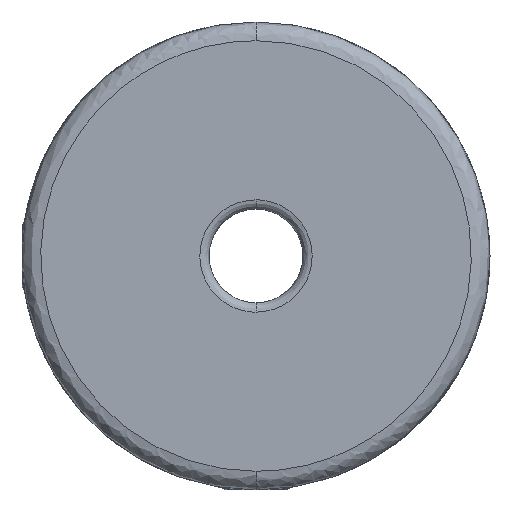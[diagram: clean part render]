
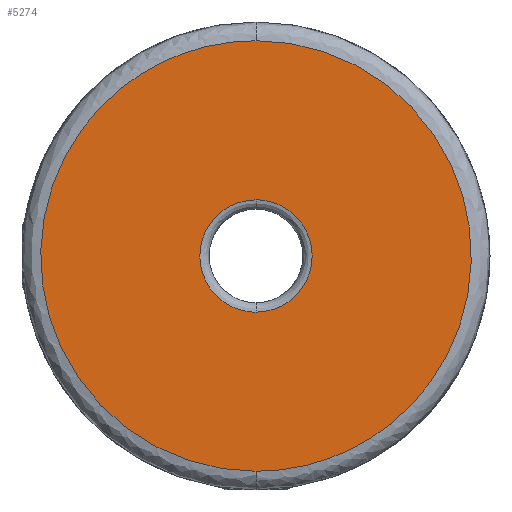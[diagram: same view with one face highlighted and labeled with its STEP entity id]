
A CAD part, left-side view. The second image highlights one B-rep face of the part: STEP entity #5274.
In plain terms, the highlighted planar face has unit normal (-1, 0, 0).
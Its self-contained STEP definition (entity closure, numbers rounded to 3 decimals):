
#307 = CARTESIAN_POINT ( 'NONE',  ( -12.5, 6., -3. ) ) ;
#308 = CARTESIAN_POINT ( 'NONE',  ( -12.5, 6., 3. ) ) ;
#309 = CARTESIAN_POINT ( 'NONE',  ( -12.5, 0., 3. ) ) ;
#381 = DIRECTION ( 'NONE',  ( 0., 0., -1. ) ) ;
#382 = DIRECTION ( 'NONE',  ( 1., 0., 0. ) ) ;
#383 = CARTESIAN_POINT ( 'NONE',  ( -12.5, 0., 0. ) ) ;
#384 = AXIS2_PLACEMENT_3D ( 'NONE', #383, #382, #381 ) ;
#385 = PLANE ( 'NONE',  #384 ) ;
#386 = FACE_BOUND ( 'NONE', #5278, .T. ) ;
#390 = FACE_OUTER_BOUND ( 'NONE', #5275, .T. ) ;
#392 = CARTESIAN_POINT ( 'NONE',  ( -12.5, 0., -3. ) ) ;
#451 =( BOUNDED_CURVE ( )  B_SPLINE_CURVE ( 3, ( #309, #308, #307, #392 ),
 .UNSPECIFIED., .F., .T. ) 
 B_SPLINE_CURVE_WITH_KNOTS ( ( 4, 4 ),
 ( 0.5, 1. ),
 .UNSPECIFIED. ) 
 CURVE ( )  GEOMETRIC_REPRESENTATION_ITEM ( )  RATIONAL_B_SPLINE_CURVE ( ( 1., 0.333, 0.333, 1. ) ) 
 REPRESENTATION_ITEM ( '' )  );
#1424 = VERTEX_POINT ( 'NONE', #2565 ) ;
#1426 = EDGE_CURVE ( 'NONE', #1424, #1427, #2564, .T. ) ;
#1427 = VERTEX_POINT ( 'NONE', #2559 ) ;
#1608 = EDGE_CURVE ( 'NONE', #1609, #1610, #4032, .T. ) ;
#1609 = VERTEX_POINT ( 'NONE', #4242 ) ;
#1610 = VERTEX_POINT ( 'NONE', #4033 ) ;
#2559 = CARTESIAN_POINT ( 'NONE',  ( -12.5, 0., -11.5 ) ) ;
#2560 = CARTESIAN_POINT ( 'NONE',  ( -12.5, 0., -11.5 ) ) ;
#2561 = CARTESIAN_POINT ( 'NONE',  ( -12.5, -23., -11.5 ) ) ;
#2562 = CARTESIAN_POINT ( 'NONE',  ( -12.5, -23., 11.5 ) ) ;
#2563 = CARTESIAN_POINT ( 'NONE',  ( -12.5, 0., 11.5 ) ) ;
#2564 =( BOUNDED_CURVE ( )  B_SPLINE_CURVE ( 3, ( #2563, #2562, #2561, #2560 ),
 .UNSPECIFIED., .F., .T. ) 
 B_SPLINE_CURVE_WITH_KNOTS ( ( 4, 4 ),
 ( 0.5, 1. ),
 .UNSPECIFIED. ) 
 CURVE ( )  GEOMETRIC_REPRESENTATION_ITEM ( )  RATIONAL_B_SPLINE_CURVE ( ( 1., 0.333, 0.333, 1. ) ) 
 REPRESENTATION_ITEM ( '' )  );
#2565 = CARTESIAN_POINT ( 'NONE',  ( -12.5, 0., 11.5 ) ) ;
#2724 =( BOUNDED_CURVE ( )  B_SPLINE_CURVE ( 3, ( #2730, #3086, #3084, #3082 ),
 .UNSPECIFIED., .F., .T. ) 
 B_SPLINE_CURVE_WITH_KNOTS ( ( 4, 4 ),
 ( 0., 0.5 ),
 .UNSPECIFIED. ) 
 CURVE ( )  GEOMETRIC_REPRESENTATION_ITEM ( )  RATIONAL_B_SPLINE_CURVE ( ( 1., 0.333, 0.333, 1. ) ) 
 REPRESENTATION_ITEM ( '' )  );
#2730 = CARTESIAN_POINT ( 'NONE',  ( -12.5, 0., -11.5 ) ) ;
#3082 = CARTESIAN_POINT ( 'NONE',  ( -12.5, 0., 11.5 ) ) ;
#3084 = CARTESIAN_POINT ( 'NONE',  ( -12.5, 23., 11.5 ) ) ;
#3086 = CARTESIAN_POINT ( 'NONE',  ( -12.5, 23., -11.5 ) ) ;
#4032 =( BOUNDED_CURVE ( )  B_SPLINE_CURVE ( 3, ( #4241, #4240, #4230, #4229 ),
 .UNSPECIFIED., .F., .T. ) 
 B_SPLINE_CURVE_WITH_KNOTS ( ( 4, 4 ),
 ( 0., 0.5 ),
 .UNSPECIFIED. ) 
 CURVE ( )  GEOMETRIC_REPRESENTATION_ITEM ( )  RATIONAL_B_SPLINE_CURVE ( ( 1., 0.333, 0.333, 1. ) ) 
 REPRESENTATION_ITEM ( '' )  );
#4033 = CARTESIAN_POINT ( 'NONE',  ( -12.5, 0., 3. ) ) ;
#4229 = CARTESIAN_POINT ( 'NONE',  ( -12.5, 0., 3. ) ) ;
#4230 = CARTESIAN_POINT ( 'NONE',  ( -12.5, -6., 3. ) ) ;
#4240 = CARTESIAN_POINT ( 'NONE',  ( -12.5, -6., -3. ) ) ;
#4241 = CARTESIAN_POINT ( 'NONE',  ( -12.5, 0., -3. ) ) ;
#4242 = CARTESIAN_POINT ( 'NONE',  ( -12.5, 0., -3. ) ) ;
#5233 = EDGE_CURVE ( 'NONE', #1427, #1424, #2724, .T. ) ;
#5265 = EDGE_CURVE ( 'NONE', #1610, #1609, #451, .T. ) ;
#5274 = ADVANCED_FACE ( 'NONE', ( #390, #386 ), #385, .F. ) ;
#5275 = EDGE_LOOP ( 'NONE', ( #5276, #5277 ) ) ;
#5276 = ORIENTED_EDGE ( 'NONE', *, *, #5233, .F. ) ;
#5277 = ORIENTED_EDGE ( 'NONE', *, *, #1426, .F. ) ;
#5278 = EDGE_LOOP ( 'NONE', ( #5279, #5280 ) ) ;
#5279 = ORIENTED_EDGE ( 'NONE', *, *, #1608, .F. ) ;
#5280 = ORIENTED_EDGE ( 'NONE', *, *, #5265, .F. ) ;
